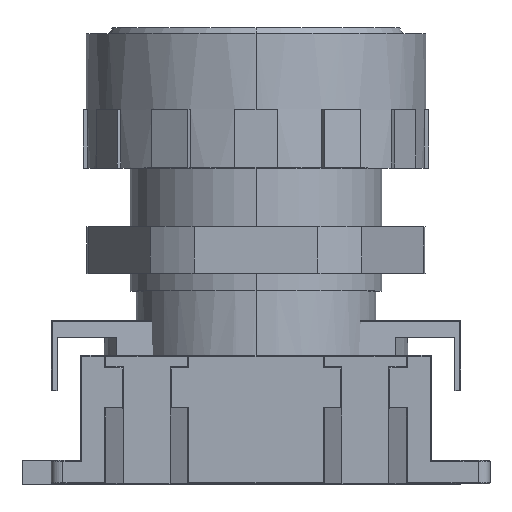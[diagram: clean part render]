
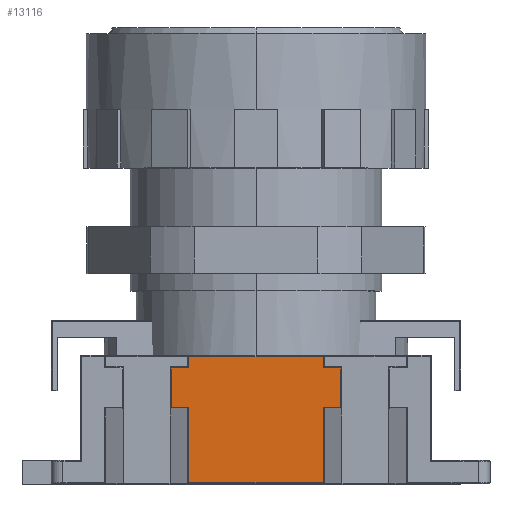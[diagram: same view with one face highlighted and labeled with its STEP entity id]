
A CAD part, top view. The second image highlights one B-rep face of the part: STEP entity #13116.
In plain terms, the highlighted planar face has unit normal (0, 0, 1).
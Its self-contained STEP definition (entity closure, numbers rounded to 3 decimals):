
#74 = VECTOR ( 'NONE', #14835, 1000. ) ;
#292 = DIRECTION ( 'NONE',  ( 0., 1., 0. ) ) ;
#445 = CARTESIAN_POINT ( 'NONE',  ( 5.75, -32., 15. ) ) ;
#582 = CARTESIAN_POINT ( 'NONE',  ( -7.25, -32.482, 15. ) ) ;
#626 = CARTESIAN_POINT ( 'NONE',  ( -7.25, -32., 15. ) ) ;
#1261 = LINE ( 'NONE', #11197, #12982 ) ;
#1279 = ORIENTED_EDGE ( 'NONE', *, *, #17360, .F. ) ;
#1512 = EDGE_LOOP ( 'NONE', ( #5268, #4367, #5185, #9755, #9245, #5478, #13805, #14455, #14630, #17938, #19639, #1279 ) ) ;
#1930 = VERTEX_POINT ( 'NONE', #13382 ) ;
#2026 = DIRECTION ( 'NONE',  ( 1., 0., 0. ) ) ;
#2083 = VERTEX_POINT ( 'NONE', #4883 ) ;
#2211 = VERTEX_POINT ( 'NONE', #3928 ) ;
#3104 = VECTOR ( 'NONE', #18292, 1000. ) ;
#3675 = LINE ( 'NONE', #13223, #14827 ) ;
#3791 = DIRECTION ( 'NONE',  ( -1., 0., 0. ) ) ;
#3928 = CARTESIAN_POINT ( 'NONE',  ( 5.75, -38.9, 15. ) ) ;
#3948 = PLANE ( 'NONE',  #18910 ) ;
#4014 = CARTESIAN_POINT ( 'NONE',  ( 0., -32., 15. ) ) ;
#4150 = VERTEX_POINT ( 'NONE', #582 ) ;
#4154 = VECTOR ( 'NONE', #12327, 1000. ) ;
#4257 = CARTESIAN_POINT ( 'NONE',  ( 0., -32.482, 15. ) ) ;
#4332 = VERTEX_POINT ( 'NONE', #18801 ) ;
#4367 = ORIENTED_EDGE ( 'NONE', *, *, #17513, .T. ) ;
#4588 = VECTOR ( 'NONE', #12827, 1000. ) ;
#4883 = CARTESIAN_POINT ( 'NONE',  ( 5.75, -29.1, 15. ) ) ;
#5185 = ORIENTED_EDGE ( 'NONE', *, *, #7912, .T. ) ;
#5268 = ORIENTED_EDGE ( 'NONE', *, *, #14728, .T. ) ;
#5478 = ORIENTED_EDGE ( 'NONE', *, *, #10415, .T. ) ;
#5480 = CARTESIAN_POINT ( 'NONE',  ( 0., -38.9, 15. ) ) ;
#5589 = DIRECTION ( 'NONE',  ( 1., 0., 0. ) ) ;
#5719 = DIRECTION ( 'NONE',  ( -1., 0., 0. ) ) ;
#6167 = LINE ( 'NONE', #445, #17780 ) ;
#6330 = VERTEX_POINT ( 'NONE', #14763 ) ;
#6377 = DIRECTION ( 'NONE',  ( 0., 1., 0. ) ) ;
#6761 = LINE ( 'NONE', #9008, #10277 ) ;
#6917 = LINE ( 'NONE', #5480, #10431 ) ;
#7279 = VECTOR ( 'NONE', #17725, 1000. ) ;
#7705 = CARTESIAN_POINT ( 'NONE',  ( -5.75, -32., 15. ) ) ;
#7912 = EDGE_CURVE ( 'NONE', #1930, #2083, #6761, .T. ) ;
#7956 = VERTEX_POINT ( 'NONE', #8272 ) ;
#8268 = LINE ( 'NONE', #12278, #4154 ) ;
#8272 = CARTESIAN_POINT ( 'NONE',  ( -5.75, -32.482, 15. ) ) ;
#8669 = EDGE_CURVE ( 'NONE', #2083, #15392, #6167, .T. ) ;
#8999 = VERTEX_POINT ( 'NONE', #14844 ) ;
#9008 = CARTESIAN_POINT ( 'NONE',  ( 0., -29.1, 15. ) ) ;
#9098 = LINE ( 'NONE', #4257, #13068 ) ;
#9107 = CARTESIAN_POINT ( 'NONE',  ( 7.25, -32.482, 15. ) ) ;
#9245 = ORIENTED_EDGE ( 'NONE', *, *, #9600, .T. ) ;
#9600 = EDGE_CURVE ( 'NONE', #15392, #6330, #11294, .T. ) ;
#9684 = CARTESIAN_POINT ( 'NONE',  ( 5.75, -28.1, 15. ) ) ;
#9740 = LINE ( 'NONE', #15432, #17298 ) ;
#9755 = ORIENTED_EDGE ( 'NONE', *, *, #8669, .T. ) ;
#10277 = VECTOR ( 'NONE', #3791, 1000. ) ;
#10415 = EDGE_CURVE ( 'NONE', #6330, #4332, #8268, .T. ) ;
#10431 = VECTOR ( 'NONE', #11554, 1000. ) ;
#11197 = CARTESIAN_POINT ( 'NONE',  ( 0., -32.482, 15. ) ) ;
#11294 = LINE ( 'NONE', #17295, #7279 ) ;
#11554 = DIRECTION ( 'NONE',  ( -1., 0., 0. ) ) ;
#11596 = EDGE_CURVE ( 'NONE', #4332, #14966, #3675, .T. ) ;
#11875 = LINE ( 'NONE', #13383, #74 ) ;
#12185 = CARTESIAN_POINT ( 'NONE',  ( 5.75, -32.482, 15. ) ) ;
#12198 = VERTEX_POINT ( 'NONE', #12185 ) ;
#12278 = CARTESIAN_POINT ( 'NONE',  ( -5.75, -32., 15. ) ) ;
#12327 = DIRECTION ( 'NONE',  ( 0., -1., 0. ) ) ;
#12479 = EDGE_CURVE ( 'NONE', #14966, #4150, #16193, .T. ) ;
#12827 = DIRECTION ( 'NONE',  ( 0., -1., 0. ) ) ;
#12982 = VECTOR ( 'NONE', #2026, 1000. ) ;
#13068 = VECTOR ( 'NONE', #13330, 1000. ) ;
#13116 = ADVANCED_FACE ( 'NONE', ( #16178 ), #3948, .T. ) ;
#13215 = CARTESIAN_POINT ( 'NONE',  ( -7.25, -29.1, 15. ) ) ;
#13223 = CARTESIAN_POINT ( 'NONE',  ( 0., -29.1, 15. ) ) ;
#13330 = DIRECTION ( 'NONE',  ( 1., 0., 0. ) ) ;
#13382 = CARTESIAN_POINT ( 'NONE',  ( 7.25, -29.1, 15. ) ) ;
#13383 = CARTESIAN_POINT ( 'NONE',  ( 5.75, -32., 15. ) ) ;
#13805 = ORIENTED_EDGE ( 'NONE', *, *, #11596, .T. ) ;
#13829 = EDGE_CURVE ( 'NONE', #4150, #7956, #9098, .T. ) ;
#14455 = ORIENTED_EDGE ( 'NONE', *, *, #12479, .T. ) ;
#14617 = DIRECTION ( 'NONE',  ( 0., 0., 1. ) ) ;
#14630 = ORIENTED_EDGE ( 'NONE', *, *, #13829, .T. ) ;
#14728 = EDGE_CURVE ( 'NONE', #12198, #15115, #1261, .T. ) ;
#14762 = LINE ( 'NONE', #7705, #3104 ) ;
#14763 = CARTESIAN_POINT ( 'NONE',  ( -5.75, -28.1, 15. ) ) ;
#14827 = VECTOR ( 'NONE', #5719, 1000. ) ;
#14835 = DIRECTION ( 'NONE',  ( 0., -1., 0. ) ) ;
#14844 = CARTESIAN_POINT ( 'NONE',  ( -5.75, -38.9, 15. ) ) ;
#14966 = VERTEX_POINT ( 'NONE', #13215 ) ;
#15115 = VERTEX_POINT ( 'NONE', #9107 ) ;
#15392 = VERTEX_POINT ( 'NONE', #9684 ) ;
#15432 = CARTESIAN_POINT ( 'NONE',  ( 7.25, -32., 15. ) ) ;
#16178 = FACE_OUTER_BOUND ( 'NONE', #1512, .T. ) ;
#16193 = LINE ( 'NONE', #626, #4588 ) ;
#16216 = EDGE_CURVE ( 'NONE', #7956, #8999, #14762, .T. ) ;
#17221 = EDGE_CURVE ( 'NONE', #2211, #8999, #6917, .T. ) ;
#17295 = CARTESIAN_POINT ( 'NONE',  ( 0., -28.1, 15. ) ) ;
#17298 = VECTOR ( 'NONE', #6377, 1000. ) ;
#17360 = EDGE_CURVE ( 'NONE', #12198, #2211, #11875, .T. ) ;
#17513 = EDGE_CURVE ( 'NONE', #15115, #1930, #9740, .T. ) ;
#17725 = DIRECTION ( 'NONE',  ( -1., 0., 0. ) ) ;
#17780 = VECTOR ( 'NONE', #292, 1000. ) ;
#17938 = ORIENTED_EDGE ( 'NONE', *, *, #16216, .T. ) ;
#18292 = DIRECTION ( 'NONE',  ( 0., -1., 0. ) ) ;
#18801 = CARTESIAN_POINT ( 'NONE',  ( -5.75, -29.1, 15. ) ) ;
#18910 = AXIS2_PLACEMENT_3D ( 'NONE', #4014, #14617, #5589 ) ;
#19639 = ORIENTED_EDGE ( 'NONE', *, *, #17221, .F. ) ;
